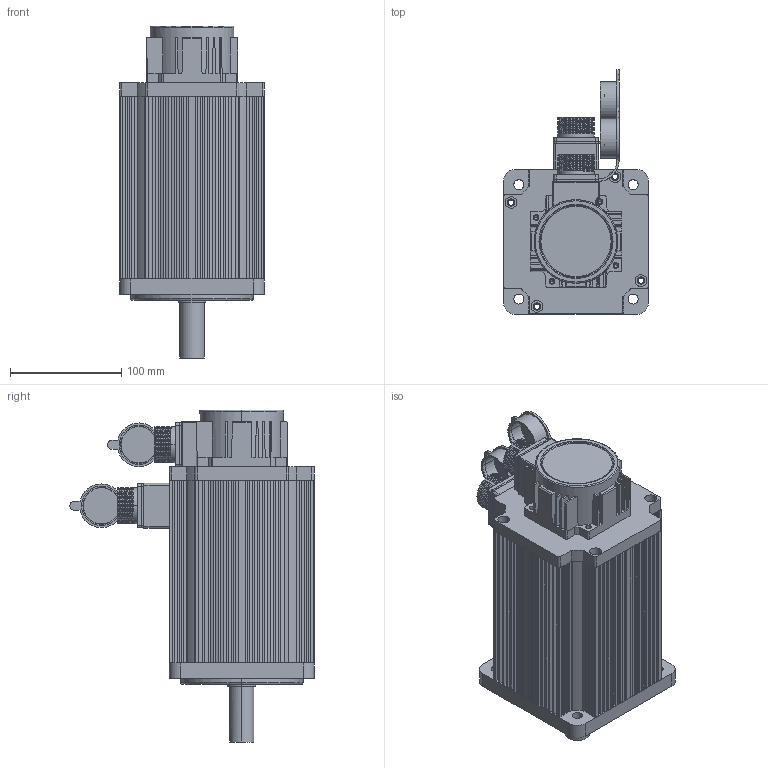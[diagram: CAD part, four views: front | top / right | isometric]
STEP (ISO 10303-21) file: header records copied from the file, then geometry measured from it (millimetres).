
FILE_DESCRIPTION (( 'STEP AP203' ), '1' );
FILE_NAME ('130 15N.M1500R.STEP', '2018-08-20T06:37:33', ( '微软用户' ), ( '微软中国' ), 'SwSTEP 2.0', 'SolidWorks 2016', '' );
FILE_SCHEMA (( 'CONFIG_CONTROL_DESIGN' ));
Length unit declared in the file: millimetre
Products named in the file (12): 130儂褲; 4郋瑤脣; 瑤脣價釱; 瑤脣々菜; 130-4郋瑤脣釱; 130ヶ裔; 15郋瑤脣; 130綴裔; 15郋瑤脣釱; 晤鎢ん欶; 130 15N.M1500R; 130 6N.M粣
Assembly tree (12 placements, depth 3):
  130 15N.M1500R
    130ヶ裔
    130綴裔
    晤鎢ん欶
    130 6N.M粣
    130儂褲
    130-4郋瑤脣釱
      4郋瑤脣
      瑤脣價釱
      瑤脣々菜
    15郋瑤脣釱
      15郋瑤脣
      瑤脣々菜
Bounding box: 130 x 219.29 x 298 mm (x, y, z)
Volume: 952264.2 mm3; surface area: 469463.1 mm2
Topology: 11 solids, 11 shells, 1351 faces, 3627 edges, 2338 vertices
Faces by surface type: plane 651, cylinder 590, sphere 36, cone 35, torus 31, bspline 8
Entity records: 45116 total; most frequent: CARTESIAN_POINT 11126, DIRECTION 6865, ORIENTED_EDGE 6842, EDGE_CURVE 3421, AXIS2_PLACEMENT_3D 2406, VERTEX_POINT 2238, LINE 2053, VECTOR 2053
